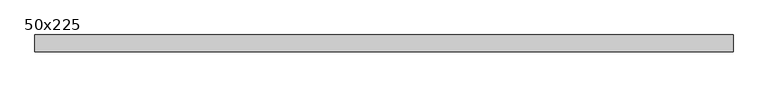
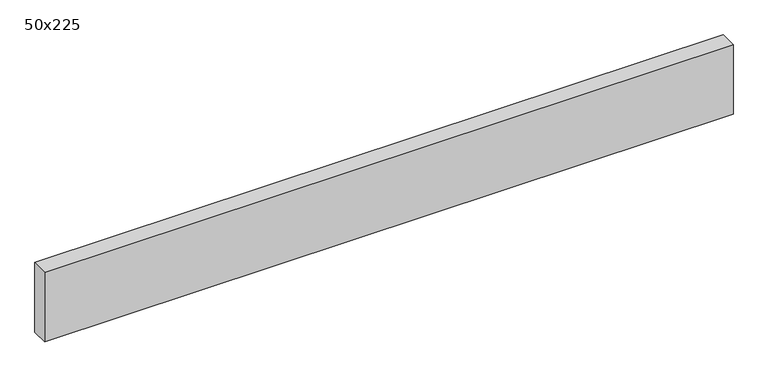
"""IFC4 building model written with IfcOpenShell, lengths in millimetres: beam geometry, Graded Timber : 50x225."""

from ifc_helpers import new_model, si_unit, frame, origin, place, context, project, spatial, polyline, outline, extrude, source, transform, mapped, element, save


def beam_50x225_5b209dad(model_context):
    return source(origin(), model_context, "Body", "SweptSolid", [
        extrude(outline(polyline([(995.0, 25.0), (995.0, -25.0), (-1054.0, -25.0), (-1054.0, 25.0), (995.0, 25.0)])), frame((0.0, 0.0, -110.0), z_axis=(0.0, 0.0, 1.0), x_axis=(1.0, 0.0, 0.0)), (0.0, 0.0, 1.0), 220.0),
    ])


if __name__ == "__main__":
    model = new_model("IFC4")
    model_context = context("Model", 3, world=origin())
    ifc_project = project(units=[si_unit("LENGTHUNIT", "METRE", prefix="MILLI")], contexts=[model_context])
    site = spatial("IfcSite", under=ifc_project)
    building = spatial("IfcBuilding", under=site)
    placement = place(None, origin())
    beam_50x225_shape = beam_50x225_5b209dad(model_context)
    element("IfcBeam", 1, ObjectType="Graded Timber : 50x225", at=placement, inside=building, context=model_context, shape_type="MappedRepresentation", body=[
        mapped(beam_50x225_shape, transform((0.0, 0.0, 0.0), x_axis=(1.0, 0.0, 0.0), y_axis=(0.0, 1.0, 0.0), z_axis=(0.0, 0.0, 1.0))),
    ])
    save(model, "model.ifc")
